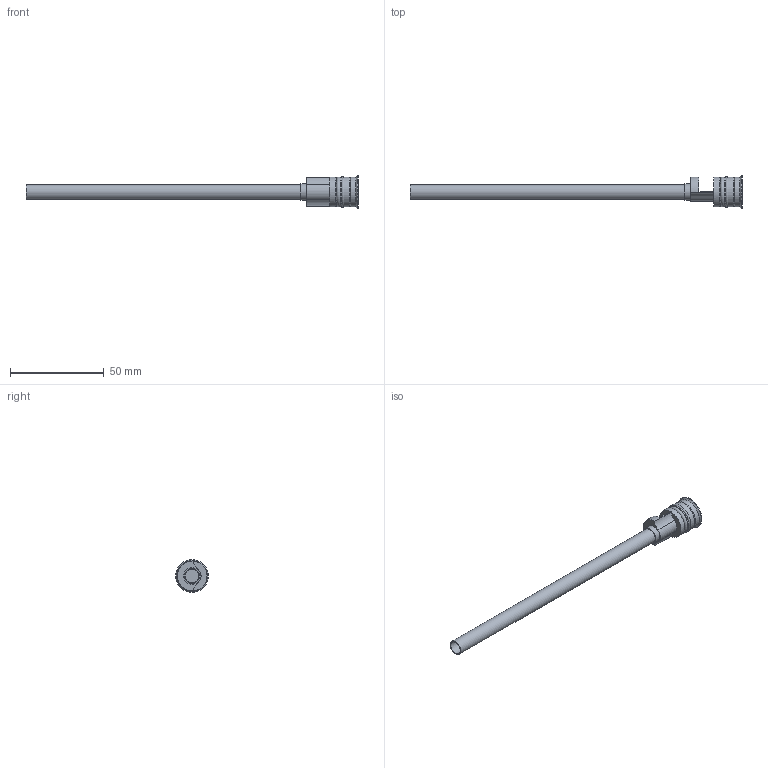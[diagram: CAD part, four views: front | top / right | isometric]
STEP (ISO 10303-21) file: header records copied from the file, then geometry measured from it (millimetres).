
FILE_DESCRIPTION( ( 'STEP AP214' ), '1' );
FILE_NAME( 'p:/temp/worker_239/temp/exporttempdir_3984_83_3ddhq/format_0/RF-16Fx150.stp', '2021-02-05T19:48:56', ( 'License CC BY-ND 4.0' ), ( 'CADENAS' ), ' ', 'PARTsolutions', ' ' );
FILE_SCHEMA( ( 'AUTOMOTIVE_DESIGN { 1 0 10303 214 1 1 1 1 }' ) );
Length unit declared in the file: millimetre
Products named in the file (1): _RF-16Fx150
Bounding box: 177.5 x 17.5 x 17.5 mm (x, y, z)
Volume: 5227.1 mm3; surface area: 9636.3 mm2
Topology: 1 solids, 1 shells, 48 faces, 110 edges, 70 vertices
Faces by surface type: plane 27, cylinder 13, cone 5, torus 3
Full cylindrical faces by diameter (mm): 7 x1, 8 x1, 9 x1, 10 x1, 16 x4, 17.5 x1
Entity records: 1671 total; most frequent: CARTESIAN_POINT 228, DIRECTION 221, ORIENTED_EDGE 184, EDGE_CURVE 92, AXIS2_PLACEMENT_3D 85, EDGE_LOOP 72, VERTEX_POINT 70, FACE_OUTER_BOUND 60
